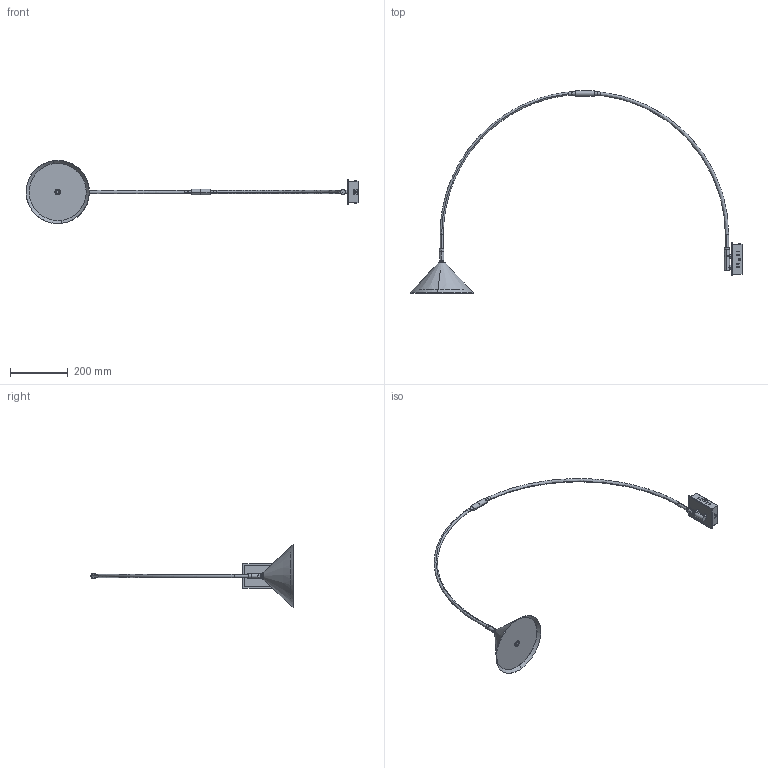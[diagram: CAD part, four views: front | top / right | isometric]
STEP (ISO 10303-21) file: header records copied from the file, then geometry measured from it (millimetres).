
FILE_DESCRIPTION (( 'STEP AP203' ), '1' );
FILE_NAME ('袱赶族腑3D芞.STEP', '2024-10-23T01:32:40', ( 'User' ), ( 'China' ), 'SwSTEP 2.0', 'SolidWorks 2022', '' );
FILE_SCHEMA (( 'CONFIG_CONTROL_DESIGN' ));
Length unit declared in the file: millimetre
Products named in the file (17): 俔奪媼; 陬璃蚾庉簽; M4x3撓譙蹟佪; 14x40耜醱麥謂陬璃; 腑欶; 勀砃芛; 17殈赽謂す貌侗; 遠倛羞陬璃; 19X65陬璃; 族啣; 袱赶族腑3D芞; 俔奪珨; M4ㄗ坋趼湍簽蹟佪ㄘ; 18X73固定套件+马鞍粒焊接图; 艦仱捚親薯え; 族啣2; 僮趼沺
Assembly tree (24 placements, depth 2):
  袱赶族腑3D芞
    族啣
    族啣2
    18X73固定套件+马鞍粒焊接图
    遠倛羞陬璃
    俔奪媼
    19X65陬璃
    14x40耜醱麥謂陬璃
    俔奪珨
    勀砃芛
    腑欶
    17殈赽謂す貌侗
    陬璃蚾庉簽
    艦仱捚親薯え
    僮趼沺
    M4ㄗ坋趼湍簽蹟佪ㄘ  x4
    M4x3撓譙蹟佪  x6
Bounding box: 1151.23 x 701.93 x 219.84 mm (x, y, z)
Volume: 370259 mm3; surface area: 324840.7 mm2
Topology: 24 solids, 24 shells, 647 faces, 1632 edges, 1067 vertices
Faces by surface type: cylinder 317, plane 235, bspline 34, torus 31, cone 30
Entity records: 17864 total; most frequent: CARTESIAN_POINT 6381, DIRECTION 2017, ORIENTED_EDGE 1938, EDGE_CURVE 969, AXIS2_PLACEMENT_3D 779, VERTEX_POINT 635, EDGE_LOOP 484, VECTOR 459
